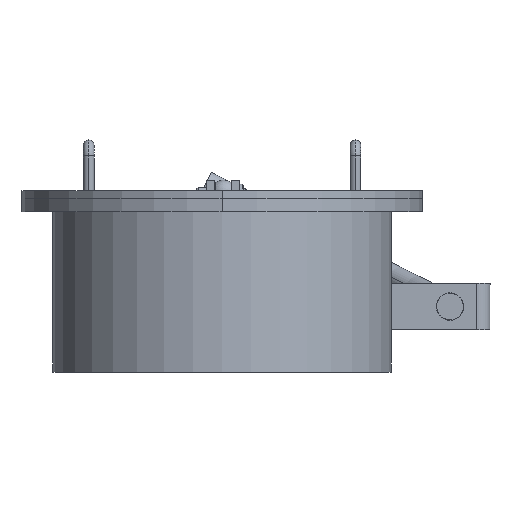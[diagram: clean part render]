
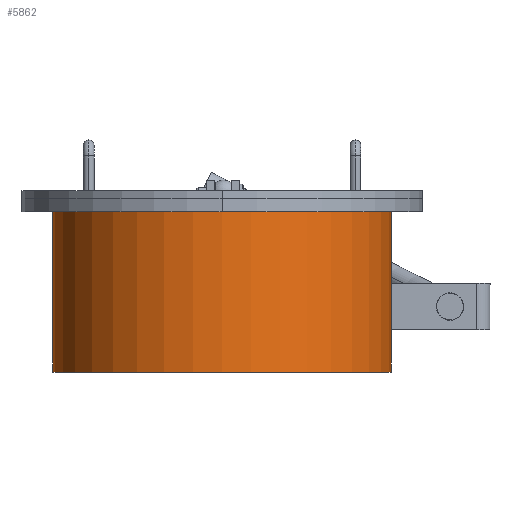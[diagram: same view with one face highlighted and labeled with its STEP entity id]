
A CAD part, front view. The second image highlights one B-rep face of the part: STEP entity #5862.
In plain terms, the highlighted cylindrical face has radius 254 mm (diameter 508 mm), a partial arc.
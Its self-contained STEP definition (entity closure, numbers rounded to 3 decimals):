
#454 = CARTESIAN_POINT ( 'NONE',  ( -254., 0., 0. ) ) ;
#1127 = VECTOR ( 'NONE', #3541, 1000. ) ;
#1600 = CIRCLE ( 'NONE', #5682, 254. ) ;
#1775 = ORIENTED_EDGE ( 'NONE', *, *, #3441, .T. ) ;
#1788 = EDGE_CURVE ( 'NONE', #7613, #7014, #2825, .T. ) ;
#1895 = CARTESIAN_POINT ( 'NONE',  ( 254., 0., 0. ) ) ;
#2365 = FACE_OUTER_BOUND ( 'NONE', #4586, .T. ) ;
#2395 = AXIS2_PLACEMENT_3D ( 'NONE', #7282, #5365, #3453 ) ;
#2497 = VERTEX_POINT ( 'NONE', #454 ) ;
#2551 = LINE ( 'NONE', #4252, #5463 ) ;
#2675 = DIRECTION ( 'NONE',  ( 0., 0., 1. ) ) ;
#2734 = CARTESIAN_POINT ( 'NONE',  ( -254., 0., 250. ) ) ;
#2825 = LINE ( 'NONE', #7361, #1127 ) ;
#2848 = CARTESIAN_POINT ( 'NONE',  ( 0., 0., 0. ) ) ;
#3426 = ORIENTED_EDGE ( 'NONE', *, *, #4786, .F. ) ;
#3441 = EDGE_CURVE ( 'NONE', #2497, #7014, #7689, .T. ) ;
#3453 = DIRECTION ( 'NONE',  ( -1., 0., 0. ) ) ;
#3480 = DIRECTION ( 'NONE',  ( 1., 0., 0. ) ) ;
#3541 = DIRECTION ( 'NONE',  ( 0., 0., -1. ) ) ;
#4252 = CARTESIAN_POINT ( 'NONE',  ( -254., 0., 250. ) ) ;
#4335 = AXIS2_PLACEMENT_3D ( 'NONE', #2848, #7314, #3480 ) ;
#4455 = ORIENTED_EDGE ( 'NONE', *, *, #1788, .F. ) ;
#4586 = EDGE_LOOP ( 'NONE', ( #4455, #3426, #6785, #1775 ) ) ;
#4786 = EDGE_CURVE ( 'NONE', #7171, #7613, #1600, .T. ) ;
#5365 = DIRECTION ( 'NONE',  ( 0., 0., -1. ) ) ;
#5463 = VECTOR ( 'NONE', #7453, 1000. ) ;
#5682 = AXIS2_PLACEMENT_3D ( 'NONE', #6511, #2675, #7147 ) ;
#5862 = ADVANCED_FACE ( 'NONE', ( #2365 ), #7269, .T. ) ;
#5906 = CARTESIAN_POINT ( 'NONE',  ( 254., 0., 250. ) ) ;
#6511 = CARTESIAN_POINT ( 'NONE',  ( 0., 0., 250. ) ) ;
#6785 = ORIENTED_EDGE ( 'NONE', *, *, #7907, .T. ) ;
#7014 = VERTEX_POINT ( 'NONE', #1895 ) ;
#7147 = DIRECTION ( 'NONE',  ( 1., 0., 0. ) ) ;
#7171 = VERTEX_POINT ( 'NONE', #2734 ) ;
#7269 = CYLINDRICAL_SURFACE ( 'NONE', #2395, 254. ) ;
#7282 = CARTESIAN_POINT ( 'NONE',  ( 0., 0., 250. ) ) ;
#7314 = DIRECTION ( 'NONE',  ( 0., 0., 1. ) ) ;
#7361 = CARTESIAN_POINT ( 'NONE',  ( 254., 0., 250. ) ) ;
#7453 = DIRECTION ( 'NONE',  ( 0., 0., -1. ) ) ;
#7613 = VERTEX_POINT ( 'NONE', #5906 ) ;
#7689 = CIRCLE ( 'NONE', #4335, 254. ) ;
#7907 = EDGE_CURVE ( 'NONE', #7171, #2497, #2551, .T. ) ;
